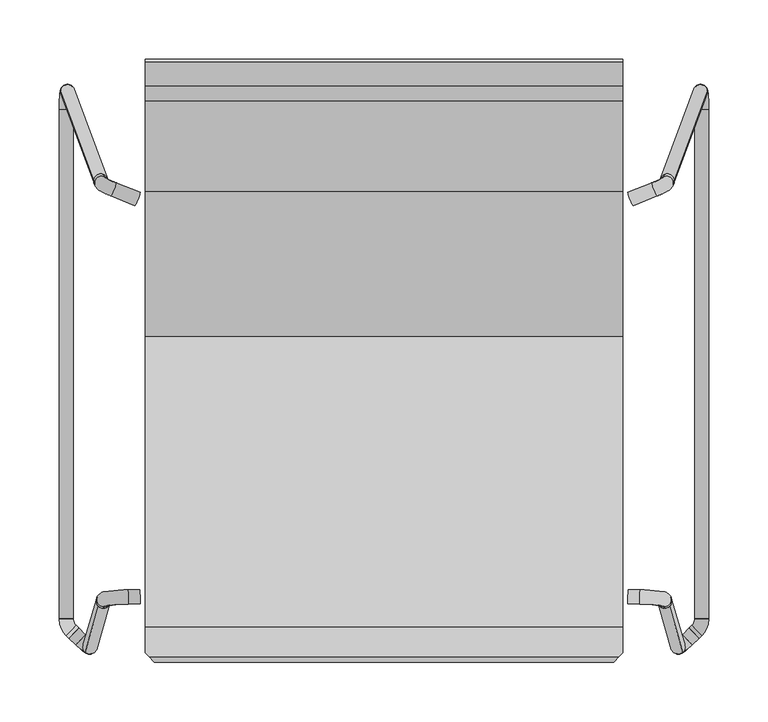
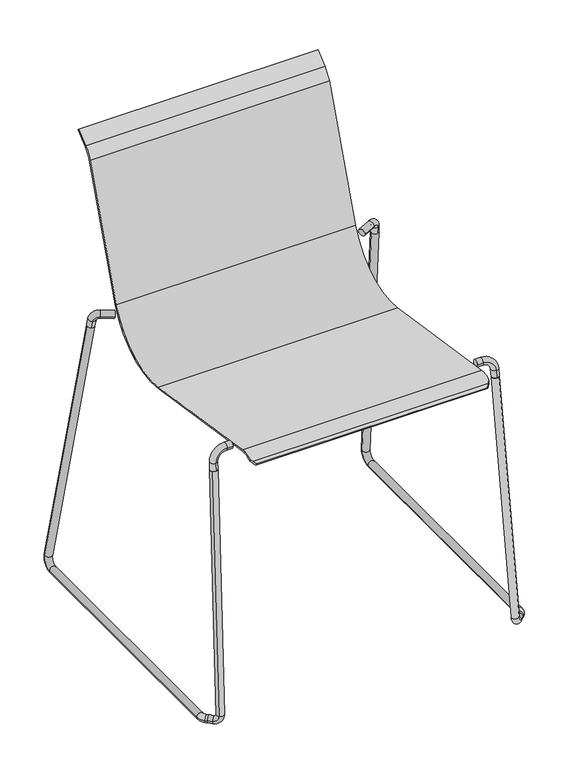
"""IFC4 building model written with IfcOpenShell, lengths in millimetres: furniture geometry, Vestre - Munch - 5113 : Vestre - Munch - 5113."""

from ifc_helpers import new_model, si_unit, point, frame, origin, place, context, project, spatial, polyline, circle_curve, ellipse_curve, trimmed, source, transform, mapped, element, save
from ifc_brep_helpers import plane_surface, cylinder_surface, revolved_surface, advanced_brep


def furniture_06264f81(model_context):
    return source(origin(), model_context, "Body", "AdvancedBrep", [
        advanced_brep(
        [(201.2444976, 24.3304529, 419.943307), (201.2444976, 149.8338924, 494.2810775), (201.2444976, 226.3730894, 704.570793), (201.2444976, 238.2492899, 721.531765), (201.2444976, 258.5294803, 738.5488653), (201.2444976, 256.6011175, 740.8469986), (201.2444976, 236.320927, 723.8298983), (201.2444976, 223.5540116, 705.5968534), (201.2444976, 147.0148146, 495.3071379), (201.2444976, 24.7853778, 422.9086137), (201.2444976, -220.3412949, 460.5149201), (201.2444976, -242.0002907, 456.3854383), (201.2444976, -242.0002907, 452.8488399), (201.2444976, -220.7962198, 457.5496134), (-201.2292924, 24.3304529, 419.943307), (-201.2292924, -220.7962198, 457.5496134), (-201.2292924, -242.0171778, 452.8375601), (-201.2292924, -242.0171778, 456.3755592), (-201.2292924, -220.3412949, 460.5149201), (-201.2292924, 24.7853778, 422.9086137), (-201.2292924, 147.0148146, 495.3071379), (-201.2292924, 223.5540116, 705.5968534), (-201.2292924, 236.320927, 723.8298983), (-201.2292924, 256.6011175, 740.8469986), (-201.2292924, 258.5294803, 738.5488653), (-201.2292924, 238.2492899, 721.531765), (-201.2292924, 226.3730894, 704.570793), (-201.2292924, 149.8338924, 494.2810775), (-197.9472119, -245.6622975, 453.9009021), (197.9472119, -245.6622975, 453.9009021), (-193.835065, -250.2292993, 450.3327693), (193.835065, -250.2292993, 450.3327693), (-195.4980973, -248.3823149, 447.9687371), (195.4980973, -248.3823149, 447.9687371), (-199.6102441, -243.8153131, 451.5368699), (199.6102441, -243.8153131, 451.5368699)],
        [
            (0, 1, circle_curve(frame((201.2444976, 41.769241, 533.613394), z_axis=(1.0, 0.0, 0.0), x_axis=(0.0, -1.0, 0.0)), 115.0)),
            (1, 2),
            (2, 3, circle_curve(frame((201.2444976, 263.9607943, 690.8899872), z_axis=(-1.0, 0.0, 0.0), x_axis=(0.0, -1.0, 0.0)), 40.0)),
            (3, 4),
            (4, 5),
            (5, 6),
            (6, 7, circle_curve(frame((201.2444976, 263.9607943, 690.8899872), z_axis=(1.0, 0.0, 0.0), x_axis=(0.0, -1.0, 0.0)), 43.0)),
            (7, 8),
            (8, 9, circle_curve(frame((201.2444976, 41.769241, 533.613394), z_axis=(-1.0, 0.0, 0.0), x_axis=(0.0, -1.0, 0.0)), 112.0)),
            (9, 10),
            (10, 11, circle_curve(frame((201.2444976, -225.3454689, 427.8965473), z_axis=(1.0, 0.0, 0.0), x_axis=(0.0, -1.0, 0.0)), 33.0)),
            (11, 12),
            (12, 13, circle_curve(frame((201.2444976, -225.3454689, 427.8965473), z_axis=(-1.0, 0.0, 0.0), x_axis=(0.0, -1.0, 0.0)), 30.0)),
            (13, 0),
            (14, 15),
            (15, 16, circle_curve(frame((-201.2292924, -225.3454689, 427.8965473), z_axis=(1.0, 0.0, 0.0), x_axis=(0.0, -1.0, 0.0)), 30.0)),
            (16, 17),
            (17, 18, circle_curve(frame((-201.2292924, -225.3454689, 427.8965473), z_axis=(-1.0, 0.0, 0.0), x_axis=(0.0, -1.0, 0.0)), 33.0)),
            (18, 19),
            (19, 20, circle_curve(frame((-201.2292924, 41.769241, 533.613394), z_axis=(1.0, 0.0, 0.0), x_axis=(0.0, -1.0, 0.0)), 112.0)),
            (20, 21),
            (21, 22, circle_curve(frame((-201.2292924, 263.9607943, 690.8899872), z_axis=(-1.0, 0.0, 0.0), x_axis=(0.0, -1.0, 0.0)), 43.0)),
            (22, 23),
            (23, 24),
            (24, 25),
            (25, 26, circle_curve(frame((-201.2292924, 263.9607943, 690.8899872), z_axis=(1.0, 0.0, 0.0), x_axis=(0.0, -1.0, 0.0)), 40.0)),
            (26, 27),
            (27, 14, circle_curve(frame((-201.2292924, 41.769241, 533.613394), z_axis=(-1.0, 0.0, 0.0), x_axis=(0.0, -1.0, 0.0)), 115.0)),
            (0, 14),
            (27, 1),
            (26, 2),
            (25, 3),
            (24, 4),
            (23, 5),
            (22, 6),
            (21, 7),
            (20, 8),
            (19, 9),
            (18, 10),
            (17, 28, ellipse_curve(frame((-216.2405666, -225.3454689, 427.8965473), z_axis=(0.743144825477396, 0.6691306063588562, 0.0), x_axis=(0.6691306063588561, -0.743144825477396, 0.0)), 44.4058801, 33.0)),
            (28, 29),
            (29, 11, ellipse_curve(frame((216.2405666, -225.3454689, 427.8965473), z_axis=(-0.743144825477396, 0.6691306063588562, 0.0), x_axis=(0.6691306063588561, 0.743144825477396, 0.0)), 44.4058801, 33.0)),
            (28, 30),
            (30, 31),
            (31, 29),
            (30, 32),
            (32, 33),
            (33, 31),
            (32, 34),
            (34, 35),
            (35, 33),
            (15, 13),
            (12, 35, ellipse_curve(frame((216.2405666, -225.3454689, 427.8965473), z_axis=(0.743144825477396, -0.6691306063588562, 0.0), x_axis=(-0.6691306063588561, -0.743144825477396, 0.0)), 40.3689819, 30.0)),
            (34, 16, ellipse_curve(frame((-216.2405666, -225.3454689, 427.8965473), z_axis=(-0.743144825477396, -0.6691306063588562, 0.0), x_axis=(-0.6691306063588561, 0.743144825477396, 0.0)), 40.3689819, 30.0)),
        ],
        [
            plane_surface(frame((201.2444976, -73.230759, 533.613394), z_axis=(1.0, 0.0, 0.0), x_axis=(0.0, 0.0, -1.0))),
            plane_surface(frame((-201.2292924, -73.230759, 533.613394), z_axis=(-1.0, 0.0, 0.0), x_axis=(0.0, 0.0, 1.0))),
            cylinder_surface(frame((-201.2292924, 41.769241, 533.613394), z_axis=(1.0, 0.0, 0.0), x_axis=(0.0, -1.0, 0.0)), 115.0),
            plane_surface(frame((201.2444976, 149.8338924, 494.2810775), z_axis=(0.0, 0.939692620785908, -0.3420201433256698), x_axis=(-1.0, 0.0, 0.0))),
            revolved_surface(polyline([(-201.2292924, 223.96079429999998, 690.8899872), (201.24449760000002, 223.96079429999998, 690.8899872)]), (-201.2292924, 263.9607943, 690.8899872), (-1.0, 0.0, 0.0)),
            plane_surface(frame((201.2444976, 238.2492899, 721.531765), z_axis=(0.0, 0.6427876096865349, -0.7660444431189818), x_axis=(-1.0, 0.0, 0.0))),
            plane_surface(frame((201.2444976, 258.5294803, 738.5488653), z_axis=(0.0, 0.7660444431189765, 0.6427876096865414), x_axis=(-1.0, 0.0, 0.0))),
            plane_surface(frame((201.2444976, 256.6011175, 740.8469986), z_axis=(0.0, -0.6427876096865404, 0.7660444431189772), x_axis=(-1.0, 0.0, 0.0))),
            cylinder_surface(frame((-201.2292924, 263.9607943, 690.8899872), z_axis=(1.0, 0.0, 0.0), x_axis=(0.0, -1.0, 0.0)), 43.0),
            plane_surface(frame((201.2444976, 223.5540116, 705.5968534), z_axis=(0.0, -0.939692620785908, 0.34202014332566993), x_axis=(-1.0, 0.0, 0.0))),
            revolved_surface(polyline([(-201.2292924, -70.230759, 533.613394), (201.24449760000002, -70.230759, 533.613394)]), (-201.2292924, 41.769241, 533.613394), (-1.0, 0.0, 0.0)),
            plane_surface(frame((201.2444976, 24.7853778, 422.9086137), z_axis=(0.0, 0.15164163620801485, 0.988435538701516), x_axis=(-1.0, 0.0, 0.0))),
            cylinder_surface(frame((-201.2292924, -225.3454689, 427.8965473), z_axis=(1.0, 0.0, 0.0), x_axis=(0.0, -1.0, 0.0)), 33.0),
            plane_surface(frame((201.2444976, -245.6622975, 453.9009021), z_axis=(0.0, -0.6156614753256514, 0.7880107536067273), x_axis=(-1.0, 0.0, 0.0))),
            plane_surface(frame((201.2444976, -250.2292993, 450.3327693), z_axis=(0.0, -0.7880107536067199, -0.615661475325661), x_axis=(-1.0, 0.0, 0.0))),
            plane_surface(frame((201.2444976, -248.3823149, 447.9687371), z_axis=(0.0, 0.6156614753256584, -0.788010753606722), x_axis=(-1.0, 0.0, 0.0))),
            revolved_surface(polyline([(-243.25268793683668, -255.3454689, 427.8965473), (243.25268793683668, -255.3454689, 427.8965473)]), (-201.2292924, -225.3454689, 427.8965473), (-1.0, 0.0, 0.0)),
            plane_surface(frame((201.2444976, -220.7962198, 457.5496134), z_axis=(0.0, -0.1516416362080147, -0.988435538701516), x_axis=(-1.0, 0.0, 0.0))),
            plane_surface(frame((-191.0980388, -253.2690749, 508.707744), z_axis=(-0.743144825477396, -0.6691306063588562, 0.0), x_axis=(0.0, 0.0, -1.0))),
            plane_surface(frame((203.6244553, -239.35708, 508.707744), z_axis=(0.743144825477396, -0.6691306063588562, 0.0), x_axis=(0.0, 0.0, -1.0))),
        ],
        [
            (0, [[1, 2, 3, 4, 5, 6, 7, 8, 9, 10, 11, 12, 13, 14]]),
            (1, [[15, 16, 17, 18, 19, 20, 21, 22, 23, 24, 25, 26, 27, 28]]),
            (2, [[-1, 29, -28, 30]]),
            (3, [[-2, -30, -27, 31]]),
            (4, [[-3, -31, -26, 32]]),
            (5, [[-4, -32, -25, 33]]),
            (6, [[-5, -33, -24, 34]]),
            (7, [[-6, -34, -23, 35]]),
            (8, [[-7, -35, -22, 36]]),
            (9, [[-8, -36, -21, 37]]),
            (10, [[-9, -37, -20, 38]]),
            (11, [[-10, -38, -19, 39]]),
            (12, [[-39, -18, 40, 41, 42, -11]]),
            (13, [[43, 44, 45, -41]]),
            (14, [[46, 47, 48, -44]]),
            (15, [[49, 50, 51, -47]]),
            (16, [[52, -13, 53, -50, 54, -16]]),
            (17, [[-14, -52, -15, -29]]),
            (18, [[-17, -54, -49, -46, -43, -40]]),
            (19, [[-12, -42, -45, -48, -51, -53]]),
        ],
    ),
        advanced_brep(
        [(233.0457887, 156.2865809, 465.3329839), (260.8880786, 231.2063556, 23.0890391), (272.8643677, 231.2063556, 23.8430286), (245.0220778, 156.2865809, 466.0869735), (241.3354032, 150.8013257, 464.9256245), (236.7324633, 161.771836, 466.4943329), (261.9876853, 216.4162599, 5.6230052), (273.9639744, 216.4162599, 6.3769948), (261.9876853, -203.7753745, 5.6230052), (261.9876853, -212.8016624, 5.6230052), (261.9758298, -212.8016624, 6.0), (273.9639744, -212.8016624, 6.3769948), (273.9639744, -203.7753745, 6.3769948), (273.9758298, -212.8016624, 6.0), (257.6353373, -221.1344936, 6.0), (259.806494, -219.064209, 6.0), (268.0876327, -227.7488358, 6.0), (265.916476, -229.8191204, 6.0), (257.6510934, -221.1510174, 5.4770655), (265.9007198, -229.8025966, 6.5229345), (261.9758298, -213.9981766, 6.0), (273.9758298, -213.9981766, 6.0), (232.7300118, -194.3305077, 423.9132302), (240.9796382, -202.9820869, 424.9590991), (260.1151952, -235.3193255, 6.5229345), (251.8655688, -226.6677463, 5.4770655), (244.0071837, -232.9025417, 15.8874668), (252.2568101, -241.5541209, 16.9333358), (210.446413, 135.2055859, 483.3567488), (205.8434731, 146.1760963, 484.9254571), (235.9486996, 159.6628357, 478.9435512), (240.5516395, 148.6923253, 477.3748429), (226.114888, 154.3021151, 487.5782964), (230.7178279, 143.3316047, 486.009588)],
        [
            (0, 1),
            (1, 2, circle_curve(frame((266.8762232, 231.2063556, 23.4660339), z_axis=(-0.06195320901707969, -0.1667075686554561, 0.9840581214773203), x_axis=(-0.9980240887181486, 0.0, -0.06283246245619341)), 6.0)),
            (2, 3),
            (3, 4, circle_curve(frame((239.0339332, 156.2865809, 465.7099787), z_axis=(0.06195320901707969, 0.1667075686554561, -0.9840581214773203), x_axis=(-0.9980240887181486, 0.0, -0.06283246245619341)), 6.0)),
            (4, 0, circle_curve(frame((239.0339332, 156.2865809, 465.7099787), z_axis=(0.06195320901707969, 0.1667075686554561, -0.9840581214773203), x_axis=(-0.9980240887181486, 0.0, -0.06283246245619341)), 6.0)),
            (0, 5, circle_curve(frame((239.0339332, 156.2865809, 465.7099787), z_axis=(0.06195320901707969, 0.1667075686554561, -0.9840581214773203), x_axis=(-0.9980240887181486, 0.0, -0.06283246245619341)), 6.0)),
            (5, 3, circle_curve(frame((239.0339332, 156.2865809, 465.7099787), z_axis=(0.06195320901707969, 0.1667075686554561, -0.9840581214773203), x_axis=(-0.9980240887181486, 0.0, -0.06283246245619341)), 6.0)),
            (2, 1, circle_curve(frame((266.8762232, 231.2063556, 23.4660339), z_axis=(-0.06195320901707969, -0.1667075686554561, 0.9840581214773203), x_axis=(-0.9980240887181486, 0.0, -0.06283246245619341)), 6.0)),
            (1, 6, circle_curve(frame((261.0451984, 216.4162599, 20.5933666), z_axis=(-0.9980240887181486, 0.0, -0.06283246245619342), x_axis=(-0.010474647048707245, 0.9860063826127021, 0.16637816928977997)), 15.0)),
            (6, 7, circle_curve(frame((267.9758298, 216.4162599, 6.0), z_axis=(0.0, 1.0, 0.0), x_axis=(-0.9980240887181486, 0.0, -0.06283246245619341)), 6.0)),
            (7, 2, circle_curve(frame((273.0214874, 216.4162599, 21.3473561), z_axis=(0.9980240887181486, 0.0, 0.06283246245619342), x_axis=(-0.010474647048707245, 0.9860063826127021, 0.16637816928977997)), 15.0)),
            (7, 6, circle_curve(frame((267.9758298, 216.4162599, 6.0), z_axis=(0.0, 1.0, 0.0), x_axis=(-0.9980240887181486, 0.0, -0.06283246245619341)), 6.0)),
            (6, 8),
            (8, 9),
            (9, 10, circle_curve(frame((267.9758298, -212.8016624, 6.0), z_axis=(0.0, 1.0, 0.0), x_axis=(-0.9980240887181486, 0.0, -0.06283246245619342)), 6.0)),
            (10, 11, circle_curve(frame((267.9758298, -212.8016624, 6.0), z_axis=(0.0, 1.0, 0.0), x_axis=(-0.9980240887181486, 0.0, -0.06283246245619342)), 6.0)),
            (11, 12),
            (12, 7),
            (11, 13, circle_curve(frame((267.9758298, -212.8016624, 6.0), z_axis=(0.0, 1.0, 0.0), x_axis=(-0.9980240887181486, 0.0, -0.06283246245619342)), 6.0)),
            (13, 9, circle_curve(frame((267.9758298, -212.8016624, 6.0), z_axis=(0.0, 1.0, 0.0), x_axis=(-0.9980240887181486, 0.0, -0.06283246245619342)), 6.0)),
            (14, 15),
            (15, 16, circle_curve(frame((263.9470633, -223.4065224, 6.0), z_axis=(-0.7237189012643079, -0.6900948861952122, 0.0), x_axis=(-0.6900948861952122, 0.7237189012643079, 0.0)), 6.0)),
            (16, 17),
            (17, 18, circle_curve(frame((261.7759066, -225.476807, 6.0), z_axis=(0.7237189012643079, 0.6900948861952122, 0.0), x_axis=(-0.6900948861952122, 0.7237189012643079, 0.0)), 6.0)),
            (18, 14, circle_curve(frame((261.7759066, -225.476807, 6.0), z_axis=(0.7237189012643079, 0.6900948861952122, 0.0), x_axis=(-0.6900948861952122, 0.7237189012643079, 0.0)), 6.0)),
            (14, 19, circle_curve(frame((261.7759066, -225.476807, 6.0), z_axis=(0.7237189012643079, 0.6900948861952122, 0.0), x_axis=(-0.6900948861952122, 0.7237189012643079, 0.0)), 6.0)),
            (19, 17, circle_curve(frame((261.7759066, -225.476807, 6.0), z_axis=(0.7237189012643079, 0.6900948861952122, 0.0), x_axis=(-0.6900948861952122, 0.7237189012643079, 0.0)), 6.0)),
            (16, 15, circle_curve(frame((263.9470633, -223.4065224, 6.0), z_axis=(-0.7237189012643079, -0.6900948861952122, 0.0), x_axis=(-0.6900948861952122, 0.7237189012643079, 0.0)), 6.0)),
            (15, 20, circle_curve(frame((254.9758298, -213.9981766, 6.0), z_axis=(0.0, 0.0, 1.0), x_axis=(0.6900948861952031, -0.7237189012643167, 0.0)), 7.0)),
            (20, 21, circle_curve(frame((267.9758298, -213.9981766, 6.0), z_axis=(0.0, -1.0, 0.0), x_axis=(-1.0, 0.0, 0.0)), 6.0)),
            (21, 16, circle_curve(frame((254.9758298, -213.9981766, 6.0), z_axis=(0.0, 0.0, -1.0), x_axis=(0.6900948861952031, -0.7237189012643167, 0.0)), 19.0)),
            (21, 20, circle_curve(frame((267.9758298, -213.9981766, 6.0), z_axis=(0.0, -1.0000000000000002, 0.0), x_axis=(-1.0000000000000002, 0.0, 0.0)), 6.0)),
            (20, 10),
            (13, 21),
            (22, 23, circle_curve(frame((236.854825, -198.6562973, 424.4361647), z_axis=(-0.027505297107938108, 0.09407813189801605, 0.9951847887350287), x_axis=(0.6874688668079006, -0.7209649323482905, 0.08715574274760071)), 6.0)),
            (23, 22, circle_curve(frame((236.854825, -198.6562973, 424.4361647), z_axis=(-0.027505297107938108, 0.09407813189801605, 0.9951847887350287), x_axis=(0.6874688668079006, -0.7209649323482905, 0.08715574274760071)), 6.0)),
            (19, 24),
            (24, 25, circle_curve(frame((255.990382, -230.9935359, 6.0), z_axis=(0.723718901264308, 0.6900948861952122, 0.0), x_axis=(0.6874688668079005, -0.7209649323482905, 0.08715574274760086)), 6.0)),
            (25, 18),
            (25, 24, circle_curve(frame((255.990382, -230.9935359, 6.0), z_axis=(0.723718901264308, 0.6900948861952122, 0.0), x_axis=(0.6874688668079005, -0.7209649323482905, 0.08715574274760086)), 6.0)),
            (22, 26),
            (26, 27, circle_curve(frame((248.1319969, -237.2283313, 16.4104013), z_axis=(-0.027505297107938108, 0.09407813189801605, 0.9951847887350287), x_axis=(0.6874688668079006, -0.7209649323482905, 0.08715574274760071)), 6.0)),
            (27, 23),
            (27, 26, circle_curve(frame((248.1319969, -237.2283313, 16.4104013), z_axis=(-0.027505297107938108, 0.09407813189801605, 0.9951847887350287), x_axis=(0.6874688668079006, -0.7209649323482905, 0.08715574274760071)), 6.0)),
            (24, 27, circle_curve(frame((259.5137379, -234.6885629, 16.4848814), z_axis=(-0.6874688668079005, 0.7209649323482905, -0.08715574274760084), x_axis=(0.06014573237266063, -0.0630762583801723, -0.9961946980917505)), 10.0)),
            (26, 25, circle_curve(frame((251.2641115, -226.0369837, 15.4390125), z_axis=(0.6874688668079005, -0.7209649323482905, 0.08715574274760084), x_axis=(0.06014573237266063, -0.0630762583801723, -0.9961946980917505)), 10.0)),
            (28, 29, circle_curve(frame((208.1449431, 140.6908411, 484.1411029), z_axis=(-0.9214279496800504, -0.3693644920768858, -0.12058360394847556), x_axis=(-0.38357832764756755, 0.9142091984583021, 0.13072569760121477)), 6.0)),
            (29, 28, circle_curve(frame((208.1449431, 140.6908411, 484.1411029), z_axis=(-0.9214279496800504, -0.3693644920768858, -0.12058360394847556), x_axis=(-0.38357832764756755, 0.9142091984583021, 0.13072569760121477)), 6.0)),
            (5, 30),
            (30, 31, circle_curve(frame((238.2501695, 154.1775805, 478.1591971), z_axis=(0.06195320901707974, 0.16670756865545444, -0.9840581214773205), x_axis=(-0.3835783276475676, 0.9142091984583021, 0.1307256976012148)), 6.0)),
            (31, 4),
            (31, 30, circle_curve(frame((238.2501695, 154.1775805, 478.1591971), z_axis=(0.06195320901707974, 0.16670756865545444, -0.9840581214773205), x_axis=(-0.3835783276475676, 0.9142091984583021, 0.1307256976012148)), 6.0)),
            (30, 32, circle_curve(frame((226.7344201, 155.9691908, 477.7377152), z_axis=(0.3835783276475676, -0.9142091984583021, -0.13072569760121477), x_axis=(0.921427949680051, 0.3693644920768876, 0.1205836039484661)), 10.0)),
            (32, 33, circle_curve(frame((228.4163579, 148.8168599, 486.7939422), z_axis=(0.9214279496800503, 0.3693644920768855, 0.12058360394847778), x_axis=(-0.3835783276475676, 0.9142091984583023, 0.13072569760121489)), 6.0)),
            (33, 31, circle_curve(frame((231.33736, 144.9986804, 476.1690068), z_axis=(-0.3835783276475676, 0.9142091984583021, 0.13072569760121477), x_axis=(0.921427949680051, 0.3693644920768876, 0.1205836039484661)), 10.0)),
            (33, 32, circle_curve(frame((228.4163579, 148.8168599, 486.7939422), z_axis=(0.9214279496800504, 0.36936449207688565, 0.1205836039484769), x_axis=(-0.3835783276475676, 0.9142091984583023, 0.13072569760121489)), 6.0)),
            (28, 33),
            (32, 29),
        ],
        [
            cylinder_surface(frame((239.0339332, 156.2865809, 465.7099787), z_axis=(-0.06195320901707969, -0.1667075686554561, 0.9840581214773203), x_axis=(-0.9980240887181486, 0.0, -0.06283246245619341)), 6.0),
            revolved_surface(trimmed(ellipse_curve(frame((266.8762232, 231.2063556, 23.4660339), z_axis=(-0.06195320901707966, -0.1667075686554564, 0.9840581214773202), x_axis=(-0.9980240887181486, 0.0, -0.0628324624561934)), 6.0, 6.0), [point((260.8880786, 231.2063556, 23.0890391))], [point((272.8643677, 231.2063556, 23.8430286))], True, "CARTESIAN"), (-0.4129905, 216.4162599, 4.1327801), (-0.9980240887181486, 0.0, -0.06283246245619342)),
            revolved_surface(trimmed(ellipse_curve(frame((266.8762232, 231.2063556, 23.4660339), z_axis=(-0.06195320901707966, -0.1667075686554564, 0.9840581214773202), x_axis=(-0.9980240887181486, 0.0, -0.0628324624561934)), 6.0, 6.0), [point((272.8643677, 231.2063556, 23.8430286))], [point((260.8880786, 231.2063556, 23.0890391))], True, "CARTESIAN"), (-0.4129905, 216.4162599, 4.1327801), (-0.9980240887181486, 0.0, -0.06283246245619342)),
            cylinder_surface(frame((267.9758298, 216.4162599, 6.0), z_axis=(0.0, 1.0, 0.0), x_axis=(-0.9980240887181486, 0.0, -0.06283246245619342)), 6.0),
            cylinder_surface(frame((261.7759066, -225.476807, 6.0), z_axis=(-0.7237189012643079, -0.6900948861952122, 0.0), x_axis=(-0.6900948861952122, 0.7237189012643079, 0.0)), 6.0),
            revolved_surface(trimmed(ellipse_curve(frame((263.9470633, -223.4065224, 6.0), z_axis=(-0.7237189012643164, -0.6900948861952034, 0.0), x_axis=(-0.6900948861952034, 0.7237189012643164, 0.0)), 6.0, 6.0), [point((259.806494, -219.064209, 6.0))], [point((268.0876327, -227.7488358, 6.0))], True, "CARTESIAN"), (254.9758298, -213.9981766, 0.0), (0.0, 0.0, 1.0)),
            revolved_surface(trimmed(ellipse_curve(frame((263.9470633, -223.4065224, 6.0), z_axis=(-0.7237189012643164, -0.6900948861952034, 0.0), x_axis=(-0.6900948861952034, 0.7237189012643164, 0.0)), 6.0, 6.0), [point((268.0876327, -227.7488358, 6.0))], [point((259.806494, -219.064209, 6.0))], True, "CARTESIAN"), (254.9758298, -213.9981766, 0.0), (0.0, 0.0, 1.0)),
            cylinder_surface(frame((267.9758298, -213.9981766, 6.0), z_axis=(0.0, -1.0, 0.0), x_axis=(-1.0, 0.0, 0.0)), 6.0),
            plane_surface(frame((421.0798651, -391.8574733, 447.7917972), z_axis=(-0.027505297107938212, 0.09407813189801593, 0.9951847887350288), x_axis=(0.6874688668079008, -0.7209649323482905, 0.0871557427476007))),
            cylinder_surface(frame((261.7759066, -225.476807, 6.0), z_axis=(0.723718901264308, 0.6900948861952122, 0.0), x_axis=(0.6874688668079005, -0.7209649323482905, 0.08715574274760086)), 6.0),
            cylinder_surface(frame((248.1319969, -237.2283313, 16.4104013), z_axis=(0.027505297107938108, -0.09407813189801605, -0.9951847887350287), x_axis=(0.6874688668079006, -0.7209649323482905, 0.08715574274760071)), 6.0),
            revolved_surface(trimmed(ellipse_curve(frame((255.990382, -230.9935359, 6.0), z_axis=(0.7237189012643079, 0.6900948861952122, 0.0), x_axis=(0.6874688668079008, -0.7209649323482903, 0.08715574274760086)), 6.0, 6.0), [point((260.1151952, -235.3193255, 6.5229345))], [point((251.8655688, -226.6677463, 5.4770655))], True, "CARTESIAN"), (439.6139648, -423.5639493, 39.3175795), (-0.6874688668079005, 0.7209649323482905, -0.08715574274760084)),
            revolved_surface(trimmed(ellipse_curve(frame((255.990382, -230.9935359, 6.0), z_axis=(0.7237189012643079, 0.6900948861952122, 0.0), x_axis=(0.6874688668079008, -0.7209649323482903, 0.08715574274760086)), 6.0, 6.0), [point((251.8655688, -226.6677463, 5.4770655))], [point((260.1151952, -235.3193255, 6.5229345))], True, "CARTESIAN"), (439.6139648, -423.5639493, 39.3175795), (-0.6874688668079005, 0.7209649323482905, -0.08715574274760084)),
            plane_surface(frame((105.3552224, 385.6768097, 519.1724302), z_axis=(-0.9214279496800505, -0.36936449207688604, -0.12058360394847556), x_axis=(-0.38357832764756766, 0.9142091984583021, 0.1307256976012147))),
            cylinder_surface(frame((239.0339332, 156.2865809, 465.7099787), z_axis=(0.061953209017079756, 0.16670756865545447, -0.9840581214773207), x_axis=(-0.3835783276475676, 0.9142091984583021, 0.1307256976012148)), 6.0),
            revolved_surface(trimmed(ellipse_curve(frame((238.2501695, 154.1775805, 478.1591971), z_axis=(0.061953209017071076, 0.16670756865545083, -0.9840581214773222), x_axis=(-0.38357832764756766, 0.9142091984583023, 0.13072569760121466)), 6.0, 6.0), [point((235.9486996, 159.6628357, 478.9435512))], [point((240.5516395, 148.6923253, 477.3748429))], True, "CARTESIAN"), (126.2461694, 395.4699042, 511.9846883), (0.3835783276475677, -0.9142091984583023, -0.1307256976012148)),
            revolved_surface(trimmed(ellipse_curve(frame((238.2501695, 154.1775805, 478.1591971), z_axis=(0.061953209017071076, 0.16670756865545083, -0.9840581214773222), x_axis=(-0.38357832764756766, 0.9142091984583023, 0.13072569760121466)), 6.0, 6.0), [point((240.5516395, 148.6923253, 477.3748429))], [point((235.9486996, 159.6628357, 478.9435512))], True, "CARTESIAN"), (126.2461694, 395.4699042, 511.9846883), (0.3835783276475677, -0.9142091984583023, -0.1307256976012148)),
            cylinder_surface(frame((228.4163579, 148.8168599, 486.7939422), z_axis=(0.9214279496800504, 0.3693644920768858, 0.12058360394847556), x_axis=(-0.38357832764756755, 0.9142091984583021, 0.13072569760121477)), 6.0),
        ],
        [
            (0, [[1, 2, 3, 4, 5]]),
            (0, [[-1, 6, 7, -3, 8]]),
            (1, [[-2, 9, 10, 11]]),
            (2, [[-8, -11, 12, -9]]),
            (3, [[-10, 13, 14, 15, 16, 17, 18]]),
            (3, [[-12, -18, -17, 19, 20, -14, -13]]),
            (4, [[21, 22, 23, 24, 25]]),
            (4, [[-21, 26, 27, -23, 28]]),
            (5, [[-22, 29, 30, 31]]),
            (6, [[-28, -31, 32, -29]]),
            (7, [[-30, 33, -15, -20, 34]]),
            (7, [[-32, -34, -19, -16, -33]]),
            (8, [[35, 36]]),
            (9, [[37, 38, 39, -24, -27]]),
            (9, [[-37, -26, -25, -39, 40]]),
            (10, [[-35, 41, 42, 43]]),
            (10, [[-36, -43, 44, -41]]),
            (11, [[-38, 45, -42, 46]]),
            (12, [[-40, -46, -44, -45]]),
            (13, [[47, 48]]),
            (14, [[49, 50, 51, -4, -7]]),
            (14, [[-49, -6, -5, -51, 52]]),
            (15, [[-50, 53, 54, 55]]),
            (16, [[-52, -55, 56, -53]]),
            (17, [[-47, 57, -54, 58]]),
            (17, [[-48, -58, -56, -57]]),
        ],
    ),
        advanced_brep(
        [(236.6897582, -204.6211212, 425.0017474), (237.013759, -192.6780423, 423.8801902), (205.8333566, -200.839548, 456.3564802), (206.1573574, -188.8964692, 455.2349229), (236.6776497, -191.5103867, 436.2170578), (236.3536489, -203.4534655, 437.338615), (215.8260333, -201.0829078, 456.6517571), (216.1500341, -189.139829, 455.5301998)],
        [
            (0, 1, circle_curve(frame((236.8517586, -198.6495817, 424.4409688), z_axis=(0.027113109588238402, -0.09419190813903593, -0.9951847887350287), x_axis=(0.027000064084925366, 0.9952565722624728, -0.09346310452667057)), 6.0)),
            (1, 0, circle_curve(frame((236.8517586, -198.6495817, 424.4409688), z_axis=(0.027113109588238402, -0.09419190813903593, -0.9951847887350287), x_axis=(0.027000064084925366, 0.9952565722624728, -0.09346310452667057)), 6.0)),
            (2, 3, circle_curve(frame((205.995357, -194.8680086, 455.7957015), z_axis=(-0.999267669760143, 0.024335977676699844, -0.02952768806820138), x_axis=(0.02700006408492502, 0.9952565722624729, -0.09346310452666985)), 6.0)),
            (3, 2, circle_curve(frame((205.995357, -194.8680086, 455.7957015), z_axis=(-0.999267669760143, 0.024335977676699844, -0.02952768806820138), x_axis=(0.02700006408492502, 0.9952565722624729, -0.09346310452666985)), 6.0)),
            (1, 4),
            (4, 5, circle_curve(frame((236.5156493, -197.4819261, 436.7778364), z_axis=(0.027113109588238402, -0.09419190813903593, -0.9951847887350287), x_axis=(0.027000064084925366, 0.9952565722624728, -0.09346310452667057)), 6.0)),
            (5, 0),
            (5, 4, circle_curve(frame((236.5156493, -197.4819261, 436.7778364), z_axis=(0.027113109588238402, -0.09419190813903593, -0.9951847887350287), x_axis=(0.027000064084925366, 0.9952565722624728, -0.09346310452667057)), 6.0)),
            (6, 5, circle_curve(frame((216.3682955, -202.966746, 436.7480613), z_axis=(0.027000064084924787, 0.9952565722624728, -0.09346310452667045), x_axis=(0.9992676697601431, -0.024335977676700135, 0.029527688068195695)), 20.0)),
            (4, 7, circle_curve(frame((216.6922963, -191.0236671, 435.626504), z_axis=(-0.027000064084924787, -0.9952565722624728, 0.09346310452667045), x_axis=(0.9992676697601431, -0.024335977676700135, 0.029527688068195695)), 20.0)),
            (7, 6, circle_curve(frame((215.9880337, -195.1113684, 456.0909784), z_axis=(0.9992676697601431, -0.0243359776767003, 0.029527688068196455), x_axis=(0.027000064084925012, 0.995256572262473, -0.0934631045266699)), 6.0)),
            (6, 7, circle_curve(frame((215.9880337, -195.1113684, 456.0909784), z_axis=(0.9992676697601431, -0.024335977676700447, 0.029527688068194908), x_axis=(0.027000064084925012, 0.995256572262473, -0.0934631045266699)), 6.0)),
            (7, 3),
            (2, 6),
        ],
        [
            plane_surface(frame((244.0871232, 68.0551241, 399.3951158), z_axis=(0.0271131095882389, -0.09419190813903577, -0.9951847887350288), x_axis=(0.027000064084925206, 0.9952565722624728, -0.09346310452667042))),
            plane_surface(frame((213.2307216, 71.8366972, 430.7498486), z_axis=(-0.999267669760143, 0.02433597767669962, -0.029527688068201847), x_axis=(0.027000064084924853, 0.9952565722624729, -0.09346310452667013))),
            cylinder_surface(frame((236.8517586, -198.6495817, 424.4409688), z_axis=(0.027113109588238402, -0.09419190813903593, -0.9951847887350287), x_axis=(0.027000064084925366, 0.9952565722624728, -0.09346310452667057)), 6.0),
            revolved_surface(trimmed(ellipse_curve(frame((236.5156493, -197.4819261, 436.7778364), z_axis=(0.0271131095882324, -0.09419190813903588, -0.9951847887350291), x_axis=(0.02700006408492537, 0.995256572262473, -0.09346310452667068)), 6.0, 6.0), [point((236.6776497, -191.5103867, 436.2170578))], [point((236.3536489, -203.4534655, 437.338615))], True, "CARTESIAN"), (223.7656605, 69.7094993, 411.1414297), (-0.027000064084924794, -0.995256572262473, 0.09346310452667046)),
            revolved_surface(trimmed(ellipse_curve(frame((236.5156493, -197.4819261, 436.7778364), z_axis=(0.0271131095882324, -0.09419190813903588, -0.9951847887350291), x_axis=(0.02700006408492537, 0.995256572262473, -0.09346310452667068)), 6.0, 6.0), [point((236.3536489, -203.4534655, 437.338615))], [point((236.6776497, -191.5103867, 436.2170578))], True, "CARTESIAN"), (223.7656605, 69.7094993, 411.1414297), (-0.027000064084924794, -0.995256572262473, 0.09346310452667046)),
            cylinder_surface(frame((215.9880337, -195.1113684, 456.0909784), z_axis=(0.999267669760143, -0.024335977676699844, 0.02952768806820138), x_axis=(0.02700006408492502, 0.9952565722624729, -0.09346310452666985)), 6.0),
        ],
        [
            (0, [[1, 2]]),
            (1, [[3, 4]]),
            (2, [[-2, 5, 6, 7]]),
            (2, [[-1, -7, 8, -5]]),
            (3, [[9, -6, 10, 11]]),
            (4, [[-10, -8, -9, 12]]),
            (5, [[-11, 13, -3, 14]]),
            (5, [[-12, -14, -4, -13]]),
        ],
    ),
        advanced_brep(
        [(-236.6897582, -204.6211212, 425.0017474), (-237.013759, -192.6780423, 423.8801902), (-205.8333566, -200.839548, 456.3564802), (-206.1573574, -188.8964692, 455.2349229), (-236.3536489, -203.4534655, 437.338615), (-236.6776497, -191.5103867, 436.2170578), (-216.1500341, -189.139829, 455.5301998), (-215.8260333, -201.0829078, 456.6517571)],
        [
            (0, 1, circle_curve(frame((-236.8517586, -198.6495817, 424.4409688), z_axis=(-0.027113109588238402, -0.09419190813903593, -0.9951847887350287), x_axis=(-0.027000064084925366, 0.9952565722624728, -0.09346310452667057)), 6.0)),
            (1, 0, circle_curve(frame((-236.8517586, -198.6495817, 424.4409688), z_axis=(-0.027113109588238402, -0.09419190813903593, -0.9951847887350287), x_axis=(-0.027000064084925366, 0.9952565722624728, -0.09346310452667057)), 6.0)),
            (2, 3, circle_curve(frame((-205.995357, -194.8680086, 455.7957015), z_axis=(0.999267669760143, 0.024335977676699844, -0.02952768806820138), x_axis=(-0.02700006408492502, 0.9952565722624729, -0.09346310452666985)), 6.0)),
            (3, 2, circle_curve(frame((-205.995357, -194.8680086, 455.7957015), z_axis=(0.999267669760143, 0.024335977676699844, -0.02952768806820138), x_axis=(-0.02700006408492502, 0.9952565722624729, -0.09346310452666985)), 6.0)),
            (0, 4),
            (4, 5, circle_curve(frame((-236.5156493, -197.4819261, 436.7778364), z_axis=(-0.027113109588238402, -0.09419190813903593, -0.9951847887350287), x_axis=(-0.027000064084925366, 0.9952565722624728, -0.09346310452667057)), 6.0)),
            (5, 1),
            (5, 4, circle_curve(frame((-236.5156493, -197.4819261, 436.7778364), z_axis=(-0.027113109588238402, -0.09419190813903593, -0.9951847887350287), x_axis=(-0.027000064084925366, 0.9952565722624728, -0.09346310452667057)), 6.0)),
            (6, 5, circle_curve(frame((-216.6922963, -191.0236671, 435.626504), z_axis=(0.027000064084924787, -0.9952565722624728, 0.09346310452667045), x_axis=(-0.9992676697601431, -0.024335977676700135, 0.029527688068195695)), 20.0)),
            (4, 7, circle_curve(frame((-216.3682955, -202.966746, 436.7480613), z_axis=(-0.027000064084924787, 0.9952565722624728, -0.09346310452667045), x_axis=(-0.9992676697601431, -0.024335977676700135, 0.029527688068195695)), 20.0)),
            (7, 6, circle_curve(frame((-215.9880337, -195.1113684, 456.0909784), z_axis=(-0.9992676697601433, -0.024335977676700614, 0.029527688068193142), x_axis=(-0.027000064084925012, 0.995256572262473, -0.0934631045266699)), 6.0)),
            (6, 7, circle_curve(frame((-215.9880337, -195.1113684, 456.0909784), z_axis=(-0.9992676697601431, -0.02433597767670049, 0.029527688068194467), x_axis=(-0.027000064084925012, 0.995256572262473, -0.0934631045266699)), 6.0)),
            (7, 2),
            (3, 6),
        ],
        [
            plane_surface(frame((-244.0871232, 68.0551241, 399.3951158), z_axis=(-0.027113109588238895, -0.09419190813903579, -0.9951847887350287), x_axis=(-0.027000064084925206, 0.9952565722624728, -0.09346310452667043))),
            plane_surface(frame((-213.2307216, 71.8366972, 430.7498486), z_axis=(0.999267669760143, 0.02433597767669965, -0.02952768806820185), x_axis=(-0.027000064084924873, 0.9952565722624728, -0.09346310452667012))),
            cylinder_surface(frame((-236.8517586, -198.6495817, 424.4409688), z_axis=(-0.027113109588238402, -0.09419190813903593, -0.9951847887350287), x_axis=(-0.027000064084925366, 0.9952565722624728, -0.09346310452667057)), 6.0),
            revolved_surface(trimmed(ellipse_curve(frame((-236.5156493, -197.4819261, 436.7778364), z_axis=(-0.0271131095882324, -0.09419190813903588, -0.9951847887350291), x_axis=(-0.02700006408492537, 0.995256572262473, -0.09346310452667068)), 6.0, 6.0), [point((-236.3536489, -203.4534655, 437.338615))], [point((-236.6776497, -191.5103867, 436.2170578))], True, "CARTESIAN"), (-223.7656605, 69.7094993, 411.1414297), (-0.027000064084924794, 0.995256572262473, -0.09346310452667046)),
            revolved_surface(trimmed(ellipse_curve(frame((-236.5156493, -197.4819261, 436.7778364), z_axis=(-0.0271131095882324, -0.09419190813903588, -0.9951847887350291), x_axis=(-0.02700006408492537, 0.995256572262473, -0.09346310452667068)), 6.0, 6.0), [point((-236.6776497, -191.5103867, 436.2170578))], [point((-236.3536489, -203.4534655, 437.338615))], True, "CARTESIAN"), (-223.7656605, 69.7094993, 411.1414297), (-0.027000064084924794, 0.995256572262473, -0.09346310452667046)),
            cylinder_surface(frame((-215.9880337, -195.1113684, 456.0909784), z_axis=(-0.999267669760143, -0.024335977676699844, 0.02952768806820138), x_axis=(-0.02700006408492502, 0.9952565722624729, -0.09346310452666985)), 6.0),
        ],
        [
            (0, [[1, 2]]),
            (1, [[3, 4]]),
            (2, [[-1, 5, 6, 7]]),
            (2, [[-2, -7, 8, -5]]),
            (3, [[9, -6, 10, 11]]),
            (4, [[-10, -8, -9, 12]]),
            (5, [[-11, 13, -4, 14]]),
            (5, [[-12, -14, -3, -13]]),
        ],
    ),
        advanced_brep(
        [(-245.0220778, 156.2865809, 466.0869735), (-272.8643677, 231.2063556, 23.8430286), (-260.8880786, 231.2063556, 23.0890391), (-233.0457887, 156.2865809, 465.3329839), (-241.3354032, 150.8013257, 464.9256245), (-236.7324633, 161.771836, 466.4943329), (-273.9639744, 216.4162599, 6.3769948), (-261.9876853, 216.4162599, 5.6230052), (-273.9639744, -203.7753745, 6.3769948), (-273.9639744, -212.8016624, 6.3769948), (-261.9758298, -212.8016624, 6.0), (-261.9876853, -212.8016624, 5.6230052), (-261.9876853, -203.7753745, 5.6230052), (-273.9758298, -212.8016624, 6.0), (-210.446413, 135.2055859, 483.3567488), (-205.8434731, 146.1760963, 484.9254571), (-240.5516395, 148.6923253, 477.3748429), (-235.9486996, 159.6628357, 478.9435512), (-230.7178279, 143.3316047, 486.009588), (-226.114888, 154.3021151, 487.5782964), (-265.916476, -229.8191204, 6.0), (-268.0876327, -227.7488358, 6.0), (-259.806494, -219.064209, 6.0), (-257.6353373, -221.1344936, 6.0), (-257.6510934, -221.1510174, 5.4770655), (-265.9007198, -229.8025966, 6.5229345), (-273.9758298, -213.9981766, 6.0), (-261.9758298, -213.9981766, 6.0), (-232.7300118, -194.3305077, 423.9132302), (-240.9796382, -202.9820869, 424.9590991), (-251.8655688, -226.6677463, 5.4770655), (-260.1151952, -235.3193255, 6.5229345), (-252.2568101, -241.5541209, 16.9333358), (-244.0071837, -232.9025417, 15.8874668)],
        [
            (0, 1),
            (1, 2, circle_curve(frame((-266.8762232, 231.2063556, 23.4660339), z_axis=(0.06195320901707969, -0.1667075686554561, 0.9840581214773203), x_axis=(0.9980240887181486, 0.0, -0.06283246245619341)), 6.0)),
            (2, 3),
            (3, 4, circle_curve(frame((-239.0339332, 156.2865809, 465.7099787), z_axis=(-0.06195320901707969, 0.1667075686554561, -0.9840581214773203), x_axis=(0.9980240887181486, 0.0, -0.06283246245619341)), 6.0)),
            (4, 0, circle_curve(frame((-239.0339332, 156.2865809, 465.7099787), z_axis=(-0.06195320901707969, 0.1667075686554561, -0.9840581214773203), x_axis=(0.9980240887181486, 0.0, -0.06283246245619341)), 6.0)),
            (0, 5, circle_curve(frame((-239.0339332, 156.2865809, 465.7099787), z_axis=(-0.06195320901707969, 0.1667075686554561, -0.9840581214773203), x_axis=(0.9980240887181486, 0.0, -0.06283246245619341)), 6.0)),
            (5, 3, circle_curve(frame((-239.0339332, 156.2865809, 465.7099787), z_axis=(-0.06195320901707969, 0.1667075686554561, -0.9840581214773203), x_axis=(0.9980240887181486, 0.0, -0.06283246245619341)), 6.0)),
            (2, 1, circle_curve(frame((-266.8762232, 231.2063556, 23.4660339), z_axis=(0.06195320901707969, -0.1667075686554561, 0.9840581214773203), x_axis=(0.9980240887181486, 0.0, -0.06283246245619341)), 6.0)),
            (1, 6, circle_curve(frame((-273.0214874, 216.4162599, 21.3473561), z_axis=(-0.9980240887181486, 0.0, 0.06283246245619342), x_axis=(0.010474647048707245, 0.9860063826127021, 0.16637816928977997)), 15.0)),
            (6, 7, circle_curve(frame((-267.9758298, 216.4162599, 6.0), z_axis=(0.0, 1.0, 0.0), x_axis=(0.9980240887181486, 0.0, -0.06283246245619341)), 6.0)),
            (7, 2, circle_curve(frame((-261.0451984, 216.4162599, 20.5933666), z_axis=(0.9980240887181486, 0.0, -0.06283246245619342), x_axis=(0.010474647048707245, 0.9860063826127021, 0.16637816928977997)), 15.0)),
            (7, 6, circle_curve(frame((-267.9758298, 216.4162599, 6.0), z_axis=(0.0, 1.0, 0.0), x_axis=(0.9980240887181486, 0.0, -0.06283246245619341)), 6.0)),
            (6, 8),
            (8, 9),
            (9, 10, circle_curve(frame((-267.9758298, -212.8016624, 6.0), z_axis=(0.0, 1.0, 0.0), x_axis=(0.9980240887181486, 0.0, -0.06283246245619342)), 6.0)),
            (10, 11, circle_curve(frame((-267.9758298, -212.8016624, 6.0), z_axis=(0.0, 1.0, 0.0), x_axis=(0.9980240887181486, 0.0, -0.06283246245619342)), 6.0)),
            (11, 12),
            (12, 7),
            (11, 13, circle_curve(frame((-267.9758298, -212.8016624, 6.0), z_axis=(0.0, 1.0, 0.0), x_axis=(0.9980240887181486, 0.0, -0.06283246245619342)), 6.0)),
            (13, 9, circle_curve(frame((-267.9758298, -212.8016624, 6.0), z_axis=(0.0, 1.0, 0.0), x_axis=(0.9980240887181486, 0.0, -0.06283246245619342)), 6.0)),
            (14, 15, circle_curve(frame((-208.1449431, 140.6908411, 484.1411029), z_axis=(0.9214279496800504, -0.369364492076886, -0.12058360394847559), x_axis=(0.38357832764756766, 0.914209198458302, 0.13072569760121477)), 6.0)),
            (15, 14, circle_curve(frame((-208.1449431, 140.6908411, 484.1411029), z_axis=(0.9214279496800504, -0.369364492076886, -0.12058360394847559), x_axis=(0.38357832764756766, 0.914209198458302, 0.13072569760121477)), 6.0)),
            (4, 16),
            (16, 17, circle_curve(frame((-238.2501695, 154.1775805, 478.1591971), z_axis=(-0.06195320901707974, 0.16670756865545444, -0.9840581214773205), x_axis=(0.3835783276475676, 0.9142091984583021, 0.1307256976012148)), 6.0)),
            (17, 5),
            (17, 16, circle_curve(frame((-238.2501695, 154.1775805, 478.1591971), z_axis=(-0.06195320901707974, 0.16670756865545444, -0.9840581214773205), x_axis=(0.3835783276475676, 0.9142091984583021, 0.1307256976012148)), 6.0)),
            (16, 18, circle_curve(frame((-231.33736, 144.9986804, 476.1690068), z_axis=(0.3835783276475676, 0.9142091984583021, 0.13072569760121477), x_axis=(-0.921427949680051, 0.3693644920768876, 0.1205836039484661)), 10.0)),
            (18, 19, circle_curve(frame((-228.4163579, 148.8168599, 486.7939422), z_axis=(-0.9214279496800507, 0.36936449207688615, 0.1205836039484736), x_axis=(0.38357832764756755, 0.9142091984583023, 0.13072569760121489)), 6.0)),
            (19, 17, circle_curve(frame((-226.7344201, 155.9691908, 477.7377152), z_axis=(-0.3835783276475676, -0.9142091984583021, -0.13072569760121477), x_axis=(-0.921427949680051, 0.3693644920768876, 0.1205836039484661)), 10.0)),
            (19, 18, circle_curve(frame((-228.4163579, 148.8168599, 486.7939422), z_axis=(-0.9214279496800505, 0.36936449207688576, 0.120583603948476), x_axis=(0.38357832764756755, 0.9142091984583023, 0.13072569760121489)), 6.0)),
            (15, 19),
            (18, 14),
            (20, 21),
            (21, 22, circle_curve(frame((-263.9470633, -223.4065224, 6.0), z_axis=(0.723718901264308, -0.6900948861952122, 0.0), x_axis=(0.6900948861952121, 0.7237189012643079, 0.0)), 6.0)),
            (22, 23),
            (23, 24, circle_curve(frame((-261.7759066, -225.476807, 6.0), z_axis=(-0.723718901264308, 0.6900948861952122, 0.0), x_axis=(0.6900948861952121, 0.7237189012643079, 0.0)), 6.0)),
            (24, 20, circle_curve(frame((-261.7759066, -225.476807, 6.0), z_axis=(-0.723718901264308, 0.6900948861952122, 0.0), x_axis=(0.6900948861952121, 0.7237189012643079, 0.0)), 6.0)),
            (20, 25, circle_curve(frame((-261.7759066, -225.476807, 6.0), z_axis=(-0.723718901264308, 0.6900948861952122, 0.0), x_axis=(0.6900948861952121, 0.7237189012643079, 0.0)), 6.0)),
            (25, 23, circle_curve(frame((-261.7759066, -225.476807, 6.0), z_axis=(-0.723718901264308, 0.6900948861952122, 0.0), x_axis=(0.6900948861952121, 0.7237189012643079, 0.0)), 6.0)),
            (22, 21, circle_curve(frame((-263.9470633, -223.4065224, 6.0), z_axis=(0.723718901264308, -0.6900948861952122, 0.0), x_axis=(0.6900948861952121, 0.7237189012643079, 0.0)), 6.0)),
            (21, 26, circle_curve(frame((-254.9758298, -213.9981766, 6.0), z_axis=(0.0, 0.0, -1.0), x_axis=(-0.6900948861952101, -0.7237189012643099, 0.0)), 19.0)),
            (26, 27, circle_curve(frame((-267.9758298, -213.9981766, 6.0), z_axis=(0.0, -1.0, 0.0), x_axis=(1.0, 0.0, 0.0)), 6.0)),
            (27, 22, circle_curve(frame((-254.9758298, -213.9981766, 6.0), z_axis=(0.0, 0.0, 1.0), x_axis=(-0.6900948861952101, -0.7237189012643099, 0.0)), 7.0)),
            (27, 26, circle_curve(frame((-267.9758298, -213.9981766, 6.0), z_axis=(0.0, -1.0, 0.0), x_axis=(1.0, 0.0, 0.0)), 6.0)),
            (26, 13),
            (10, 27),
            (28, 29, circle_curve(frame((-236.854825, -198.6562973, 424.4361647), z_axis=(0.027505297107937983, 0.09407813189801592, 0.9951847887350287), x_axis=(-0.6874688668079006, -0.7209649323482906, 0.08715574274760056)), 6.0)),
            (29, 28, circle_curve(frame((-236.854825, -198.6562973, 424.4361647), z_axis=(0.027505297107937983, 0.09407813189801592, 0.9951847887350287), x_axis=(-0.6874688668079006, -0.7209649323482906, 0.08715574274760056)), 6.0)),
            (24, 30),
            (30, 31, circle_curve(frame((-255.990382, -230.9935359, 6.0), z_axis=(-0.723718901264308, 0.6900948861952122, 0.0), x_axis=(-0.6874688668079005, -0.7209649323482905, 0.08715574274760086)), 6.0)),
            (31, 25),
            (31, 30, circle_curve(frame((-255.990382, -230.9935359, 6.0), z_axis=(-0.723718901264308, 0.6900948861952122, 0.0), x_axis=(-0.6874688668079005, -0.7209649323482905, 0.08715574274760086)), 6.0)),
            (29, 32),
            (32, 33, circle_curve(frame((-248.1319969, -237.2283313, 16.4104013), z_axis=(0.027505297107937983, 0.09407813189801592, 0.9951847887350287), x_axis=(-0.6874688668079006, -0.7209649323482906, 0.08715574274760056)), 6.0)),
            (33, 28),
            (33, 32, circle_curve(frame((-248.1319969, -237.2283313, 16.4104013), z_axis=(0.027505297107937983, 0.09407813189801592, 0.9951847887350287), x_axis=(-0.6874688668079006, -0.7209649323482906, 0.08715574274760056)), 6.0)),
            (30, 33, circle_curve(frame((-251.2641115, -226.0369837, 15.4390125), z_axis=(-0.6874688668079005, -0.7209649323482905, 0.08715574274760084), x_axis=(-0.06014573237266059, -0.06307625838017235, -0.9961946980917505)), 10.0)),
            (32, 31, circle_curve(frame((-259.5137379, -234.6885629, 16.4848814), z_axis=(0.6874688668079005, 0.7209649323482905, -0.08715574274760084), x_axis=(-0.06014573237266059, -0.06307625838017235, -0.9961946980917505)), 10.0)),
        ],
        [
            cylinder_surface(frame((-239.0339332, 156.2865809, 465.7099787), z_axis=(0.06195320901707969, -0.1667075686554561, 0.9840581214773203), x_axis=(0.9980240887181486, 0.0, -0.06283246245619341)), 6.0),
            revolved_surface(trimmed(ellipse_curve(frame((-266.8762232, 231.2063556, 23.4660339), z_axis=(0.06195320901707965, -0.16670756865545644, 0.9840581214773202), x_axis=(0.9980240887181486, 0.0, -0.06283246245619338)), 6.0, 6.0), [point((-272.8643677, 231.2063556, 23.8430286))], [point((-260.8880786, 231.2063556, 23.0890391))], True, "CARTESIAN"), (0.4129905, 216.4162599, 4.1327801), (-0.9980240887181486, 0.0, 0.06283246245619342)),
            revolved_surface(trimmed(ellipse_curve(frame((-266.8762232, 231.2063556, 23.4660339), z_axis=(0.06195320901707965, -0.16670756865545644, 0.9840581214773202), x_axis=(0.9980240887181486, 0.0, -0.06283246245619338)), 6.0, 6.0), [point((-260.8880786, 231.2063556, 23.0890391))], [point((-272.8643677, 231.2063556, 23.8430286))], True, "CARTESIAN"), (0.4129905, 216.4162599, 4.1327801), (-0.9980240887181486, 0.0, 0.06283246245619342)),
            cylinder_surface(frame((-267.9758298, 216.4162599, 6.0), z_axis=(0.0, 1.0, 0.0), x_axis=(0.9980240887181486, 0.0, -0.06283246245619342)), 6.0),
            plane_surface(frame((-105.3552224, 385.6768097, 519.1724302), z_axis=(0.9214279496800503, -0.369364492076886, -0.1205836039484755), x_axis=(0.38357832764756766, 0.914209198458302, 0.1307256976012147))),
            cylinder_surface(frame((-239.0339332, 156.2865809, 465.7099787), z_axis=(-0.061953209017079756, 0.16670756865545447, -0.9840581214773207), x_axis=(0.3835783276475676, 0.9142091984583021, 0.1307256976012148)), 6.0),
            revolved_surface(trimmed(ellipse_curve(frame((-238.2501695, 154.1775805, 478.1591971), z_axis=(-0.061953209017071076, 0.16670756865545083, -0.9840581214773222), x_axis=(0.38357832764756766, 0.9142091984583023, 0.13072569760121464)), 6.0, 6.0), [point((-240.5516395, 148.6923253, 477.3748429))], [point((-235.9486996, 159.6628357, 478.9435512))], True, "CARTESIAN"), (-126.2461694, 395.4699042, 511.9846883), (0.3835783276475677, 0.9142091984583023, 0.1307256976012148)),
            revolved_surface(trimmed(ellipse_curve(frame((-238.2501695, 154.1775805, 478.1591971), z_axis=(-0.061953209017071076, 0.16670756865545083, -0.9840581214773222), x_axis=(0.38357832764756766, 0.9142091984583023, 0.13072569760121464)), 6.0, 6.0), [point((-235.9486996, 159.6628357, 478.9435512))], [point((-240.5516395, 148.6923253, 477.3748429))], True, "CARTESIAN"), (-126.2461694, 395.4699042, 511.9846883), (0.3835783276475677, 0.9142091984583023, 0.1307256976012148)),
            cylinder_surface(frame((-228.4163579, 148.8168599, 486.7939422), z_axis=(-0.9214279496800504, 0.369364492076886, 0.12058360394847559), x_axis=(0.38357832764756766, 0.914209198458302, 0.13072569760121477)), 6.0),
            cylinder_surface(frame((-261.7759066, -225.476807, 6.0), z_axis=(0.7237189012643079, -0.6900948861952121, 0.0), x_axis=(0.6900948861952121, 0.7237189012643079, 0.0)), 6.0),
            revolved_surface(trimmed(ellipse_curve(frame((-263.9470633, -223.4065224, 6.0), z_axis=(0.7237189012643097, -0.6900948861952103, 0.0), x_axis=(0.6900948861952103, 0.7237189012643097, 0.0)), 6.0, 6.0), [point((-268.0876327, -227.7488358, 6.0))], [point((-259.806494, -219.064209, 6.0))], True, "CARTESIAN"), (-254.9758298, -213.9981766, 0.0), (0.0, 0.0, -1.0)),
            revolved_surface(trimmed(ellipse_curve(frame((-263.9470633, -223.4065224, 6.0), z_axis=(0.7237189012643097, -0.6900948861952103, 0.0), x_axis=(0.6900948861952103, 0.7237189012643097, 0.0)), 6.0, 6.0), [point((-259.806494, -219.064209, 6.0))], [point((-268.0876327, -227.7488358, 6.0))], True, "CARTESIAN"), (-254.9758298, -213.9981766, 0.0), (0.0, 0.0, -1.0)),
            cylinder_surface(frame((-267.9758298, -213.9981766, 6.0), z_axis=(0.0, -1.0, 0.0), x_axis=(1.0, 0.0, 0.0)), 6.0),
            plane_surface(frame((-421.0798651, -391.8574733, 447.7917972), z_axis=(0.027505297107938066, 0.09407813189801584, 0.9951847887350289), x_axis=(-0.6874688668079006, -0.7209649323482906, 0.08715574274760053))),
            cylinder_surface(frame((-261.7759066, -225.476807, 6.0), z_axis=(-0.723718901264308, 0.6900948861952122, 0.0), x_axis=(-0.6874688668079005, -0.7209649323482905, 0.08715574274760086)), 6.0),
            cylinder_surface(frame((-248.1319969, -237.2283313, 16.4104013), z_axis=(-0.02750529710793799, -0.09407813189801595, -0.9951847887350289), x_axis=(-0.6874688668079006, -0.7209649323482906, 0.08715574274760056)), 6.0),
            revolved_surface(trimmed(ellipse_curve(frame((-255.990382, -230.9935359, 6.0), z_axis=(-0.7237189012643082, 0.6900948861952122, 0.0), x_axis=(-0.6874688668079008, -0.7209649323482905, 0.08715574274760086)), 6.0, 6.0), [point((-251.8655688, -226.6677463, 5.4770655))], [point((-260.1151952, -235.3193255, 6.5229345))], True, "CARTESIAN"), (-439.6139648, -423.5639493, 39.3175795), (-0.6874688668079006, -0.7209649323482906, 0.08715574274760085)),
            revolved_surface(trimmed(ellipse_curve(frame((-255.990382, -230.9935359, 6.0), z_axis=(-0.7237189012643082, 0.6900948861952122, 0.0), x_axis=(-0.6874688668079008, -0.7209649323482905, 0.08715574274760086)), 6.0, 6.0), [point((-260.1151952, -235.3193255, 6.5229345))], [point((-251.8655688, -226.6677463, 5.4770655))], True, "CARTESIAN"), (-439.6139648, -423.5639493, 39.3175795), (-0.6874688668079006, -0.7209649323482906, 0.08715574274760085)),
        ],
        [
            (0, [[1, 2, 3, 4, 5]]),
            (0, [[-1, 6, 7, -3, 8]]),
            (1, [[-2, 9, 10, 11]]),
            (2, [[-8, -11, 12, -9]]),
            (3, [[-10, 13, 14, 15, 16, 17, 18]]),
            (3, [[-12, -18, -17, 19, 20, -14, -13]]),
            (4, [[21, 22]]),
            (5, [[23, 24, 25, -6, -5]]),
            (5, [[-23, -4, -7, -25, 26]]),
            (6, [[-24, 27, 28, 29]]),
            (7, [[-26, -29, 30, -27]]),
            (8, [[-22, 31, -28, 32]]),
            (8, [[-21, -32, -30, -31]]),
            (9, [[33, 34, 35, 36, 37]]),
            (9, [[-33, 38, 39, -35, 40]]),
            (10, [[-34, 41, 42, 43]]),
            (11, [[-40, -43, 44, -41]]),
            (12, [[-42, 45, -19, -16, 46]]),
            (12, [[-44, -46, -15, -20, -45]]),
            (13, [[47, 48]]),
            (14, [[49, 50, 51, -38, -37]]),
            (14, [[-49, -36, -39, -51, 52]]),
            (15, [[-48, 53, 54, 55]]),
            (15, [[-47, -55, 56, -53]]),
            (16, [[-50, 57, -54, 58]]),
            (17, [[-52, -58, -56, -57]]),
        ],
    ),
    ])


if __name__ == "__main__":
    model = new_model("IFC4")
    model_context = context("Model", 3, world=origin())
    ifc_project = project(units=[si_unit("LENGTHUNIT", "METRE", prefix="MILLI")], contexts=[model_context])
    site = spatial("IfcSite", under=ifc_project)
    building = spatial("IfcBuilding", under=site)
    placement = place(None, origin())
    furniture_shape = furniture_06264f81(model_context)
    element("IfcFurniture", 1, ObjectType="Vestre - Munch - 5113 : Vestre - Munch - 5113", at=placement, inside=building, context=model_context, shape_type="MappedRepresentation", body=[
        mapped(furniture_shape, transform((0.0, 0.0, 0.0), x_axis=(1.0, 0.0, 0.0), y_axis=(0.0, 1.0, 0.0), z_axis=(0.0, 0.0, 1.0))),
    ])
    save(model, "model.ifc")
